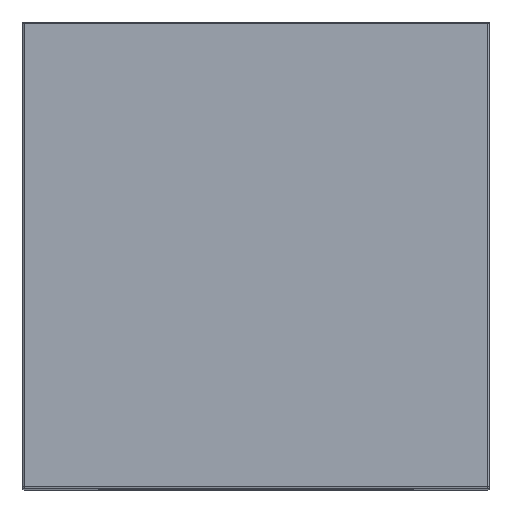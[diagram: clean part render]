
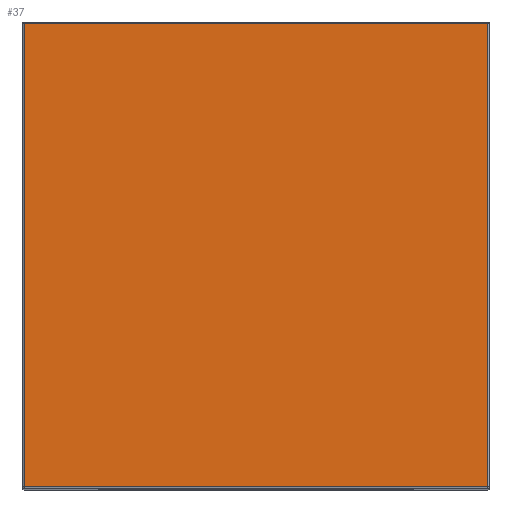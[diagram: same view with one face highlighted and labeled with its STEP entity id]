
A CAD part, top view. The second image highlights one B-rep face of the part: STEP entity #37.
In plain terms, the highlighted planar face has unit normal (0, 0, 1).
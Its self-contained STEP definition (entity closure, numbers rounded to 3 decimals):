
#37=ADVANCED_FACE('',(#191),#2057,.T.);
#191=FACE_OUTER_BOUND('',#347,.T.);
#347=EDGE_LOOP('',(#587,#588,#589,#590));
#587=ORIENTED_EDGE('',*,*,#1149,.T.);
#588=ORIENTED_EDGE('',*,*,#1150,.T.);
#589=ORIENTED_EDGE('',*,*,#1152,.T.);
#590=ORIENTED_EDGE('',*,*,#1151,.T.);
#1149=EDGE_CURVE('',#1793,#1794,#1619,.T.);
#1150=EDGE_CURVE('',#1794,#1795,#1620,.T.);
#1151=EDGE_CURVE('',#1796,#1793,#1621,.T.);
#1152=EDGE_CURVE('',#1795,#1796,#1622,.T.);
#1619=B_SPLINE_CURVE_WITH_KNOTS('',1,(#3573,#3574),.UNSPECIFIED.,.F.,.F.,
(2,2),(1.,299.),.UNSPECIFIED.);
#1620=B_SPLINE_CURVE_WITH_KNOTS('',1,(#3575,#3576),.UNSPECIFIED.,.F.,.F.,
(2,2),(1.,299.),.UNSPECIFIED.);
#1621=B_SPLINE_CURVE_WITH_KNOTS('',1,(#3577,#3578),.UNSPECIFIED.,.F.,.F.,
(2,2),(1.,299.),.UNSPECIFIED.);
#1622=B_SPLINE_CURVE_WITH_KNOTS('',1,(#3579,#3580),.UNSPECIFIED.,.F.,.F.,
(2,2),(1.,299.),.UNSPECIFIED.);
#1793=VERTEX_POINT('',#3381);
#1794=VERTEX_POINT('',#3382);
#1795=VERTEX_POINT('',#3383);
#1796=VERTEX_POINT('',#3384);
#2057=PLANE('',#2115);
#2115=AXIS2_PLACEMENT_3D('',#2197,#2156,$);
#2156=DIRECTION('',(0.,0.,1.));
#2197=CARTESIAN_POINT('',(968.122,-208.12,550.));
#3381=CARTESIAN_POINT('',(1267.122,90.88,550.));
#3382=CARTESIAN_POINT('',(969.122,90.88,550.));
#3383=CARTESIAN_POINT('',(969.122,-207.12,550.));
#3384=CARTESIAN_POINT('',(1267.122,-207.12,550.));
#3573=CARTESIAN_POINT('',(1267.122,90.88,550.));
#3574=CARTESIAN_POINT('',(969.122,90.88,550.));
#3575=CARTESIAN_POINT('',(969.122,90.88,550.));
#3576=CARTESIAN_POINT('',(969.122,-207.12,550.));
#3577=CARTESIAN_POINT('',(1267.122,-207.12,550.));
#3578=CARTESIAN_POINT('',(1267.122,90.88,550.));
#3579=CARTESIAN_POINT('',(969.122,-207.12,550.));
#3580=CARTESIAN_POINT('',(1267.122,-207.12,550.));
